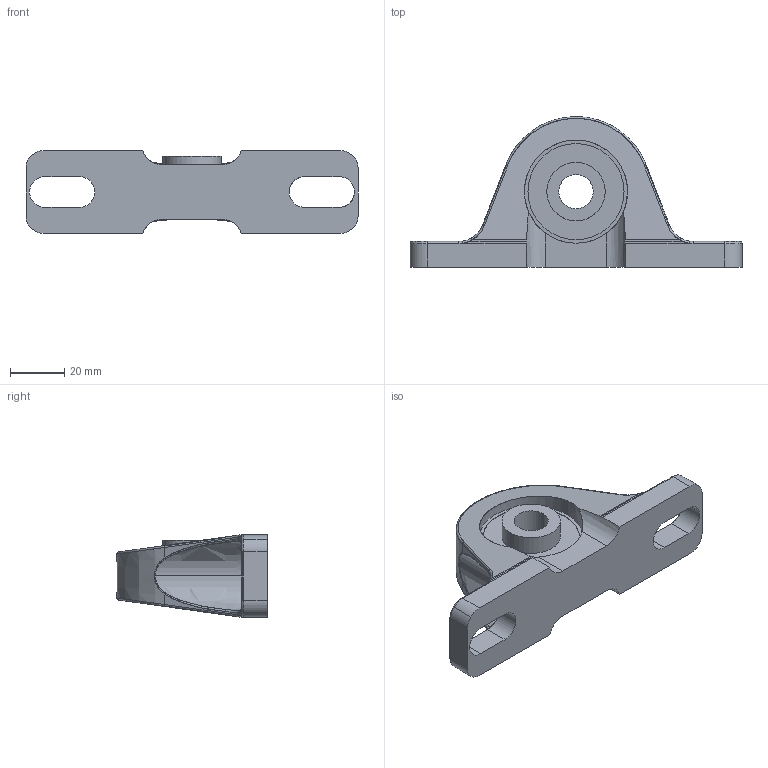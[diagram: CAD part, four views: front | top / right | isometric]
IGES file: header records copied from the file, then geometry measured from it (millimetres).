
Global section: file name: C:\Documents and Settings\Administrator\Desktop\Transfer Temp\Pillow block bearing.igs; native system: AutoDesk Inventor R2.0 ; preprocessor: AutoDesk Inventor Iges Exporter R2.0; author: No Author specified; organization: No Organization specified; date: 20020121.154655; units: inch
Bounding box: 122.56 x 55.62 x 30.48 mm (x, y, z)
Surface area: 18626 mm2 (no closed solid volume)
Topology: 0 solids, 0 shells, 145 faces, 746 edges, 744 vertices
Faces by surface type: revolution 94, bspline 51
